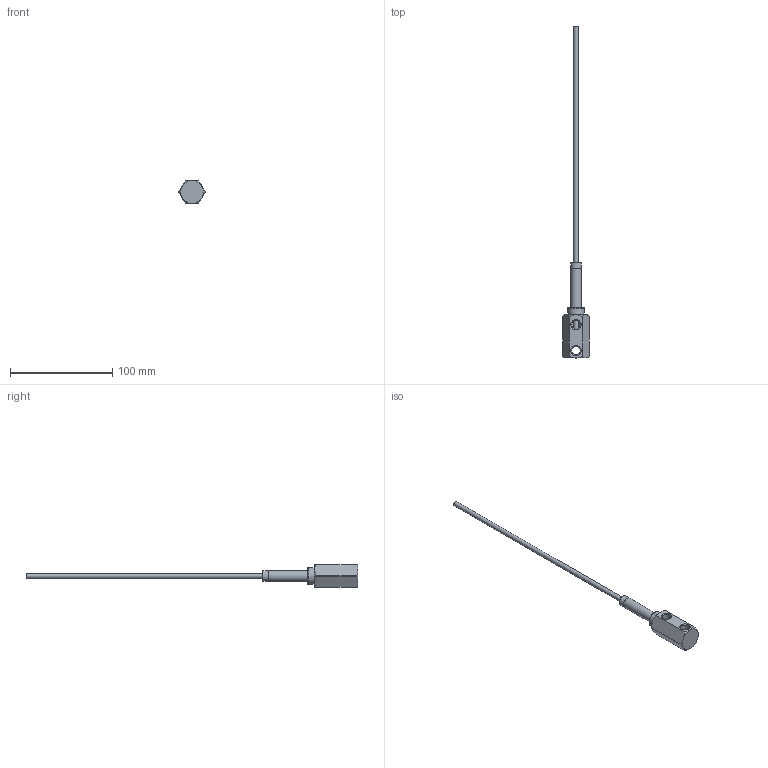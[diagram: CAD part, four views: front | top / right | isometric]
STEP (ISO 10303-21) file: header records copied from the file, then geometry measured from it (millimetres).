
FILE_DESCRIPTION(/* description */ (''),/* implementation_level */ '2;1');
FILE_NAME(/* name */ 'C:/Users/drich/Desktop/181N-HFT v1.step',/* time_stamp */ '2020-01-15T19:37:37-06:00',/* author */ (''),/* organization */ (''),/* preprocessor_version */ 'ST-DEVELOPER v18',/* originating_system */ 'Autodesk Translation Framework v8.12.0.6',/* authorisation */ '');
FILE_SCHEMA (('AUTOMOTIVE_DESIGN { 1 0 10303 214 3 1 1 }'));
Length unit declared in the file: inch
Products named in the file (4): 181N-HFT; 181H; SSPN18-2; HF187T-12
Assembly tree (3 placements, depth 2):
  181N-HFT
    181H
    SSPN18-2
    HF187T-12
Bounding box: 25.65 x 324.03 x 22.23 mm (x, y, z)
Volume: 19315.3 mm3; surface area: 17204.5 mm2
Topology: 3 solids, 3 shells, 66 faces, 180 edges, 124 vertices
Faces by surface type: cone 24, cylinder 20, plane 17, torus 5
Full cylindrical faces by diameter (mm): 4.242 x1, 4.75 x1, 5.474 x1, 6.243 x1, 6.401 x1, 6.833 x1, 8.707 x4, 10.262 x2, 10.312 x1, 15.875 x1
Entity records: 2329 total; most frequent: CARTESIAN_POINT 489, DIRECTION 394, ORIENTED_EDGE 360, EDGE_CURVE 180, AXIS2_PLACEMENT_3D 174, VERTEX_POINT 124, CIRCLE 99, EDGE_LOOP 80
